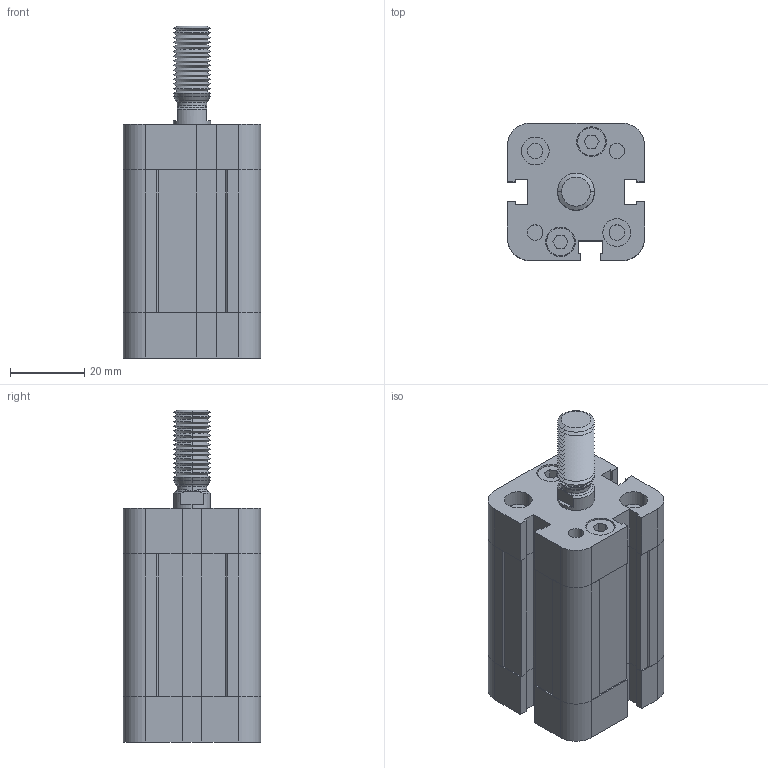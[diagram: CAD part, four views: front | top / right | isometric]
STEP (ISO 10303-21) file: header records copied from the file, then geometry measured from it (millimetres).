
FILE_DESCRIPTION (( 'STEP AP203' ), '1' );
FILE_NAME ('NSKU020.0025 M.STEP', '2010-06-16T12:44:19', ( 'Vesta Automation srl' ), ( 'Vesta Automation srl' ), 'SwSTEP 2.0', 'SolidWorks 2009', '' );
FILE_SCHEMA (( 'CONFIG_CONTROL_DESIGN' ));
Length unit declared in the file: millimetre
Products named in the file (5): NSKU020.0025 M; FRONT END CAP-NSKU 20; REAR END CAP-NSKU 20; PISTON ROD-NSKU 020 M_STROKE 0025; BARREL-NSKU20_STROKE 0025
Assembly tree (4 placements, depth 2):
  NSKU020.0025 M
    FRONT END CAP-NSKU 20
    BARREL-NSKU20_STROKE 0025
    REAR END CAP-NSKU 20
    PISTON ROD-NSKU 020 M_STROKE 0025
Bounding box: 37 x 37 x 89.5 mm (x, y, z)
Volume: 69138.5 mm3; surface area: 29149.6 mm2
Topology: 5 solids, 5 shells, 563 faces, 1384 edges, 860 vertices
Faces by surface type: plane 287, cylinder 156, cone 112, torus 4, bspline 4
Entity records: 17203 total; most frequent: CARTESIAN_POINT 3130, DIRECTION 2880, ORIENTED_EDGE 2760, EDGE_CURVE 1380, LINE 996, VECTOR 996, AXIS2_PLACEMENT_3D 942, VERTEX_POINT 860
